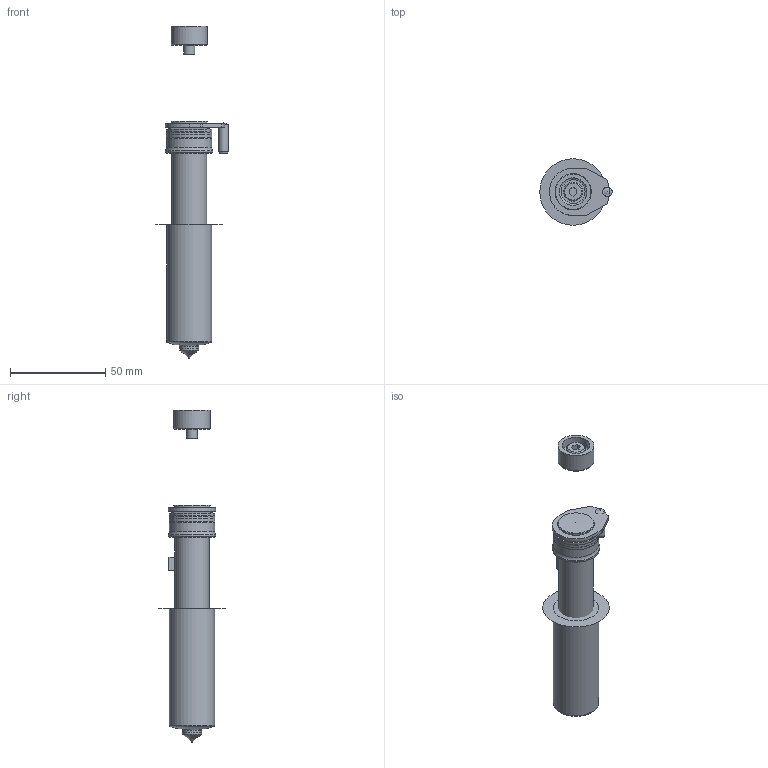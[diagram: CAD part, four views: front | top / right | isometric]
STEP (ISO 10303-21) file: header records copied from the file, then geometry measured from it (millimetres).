
FILE_DESCRIPTION(/* description */ (''),/* implementation_level */ '2;1');
FILE_NAME(/* name */ 'U500 HT-D.stp',/* time_stamp */ '2021-12-22T13:57:40+08:00',/* author */ (''),/* organization */ (''),/* preprocessor_version */ 'ST-DEVELOPER v16',/* originating_system */ 'SIEMENS PLM Software NX 11.0',/* authorisation */ '');
FILE_SCHEMA (('AUTOMOTIVE_DESIGN { 1 0 10303 214 3 1 1 1 }'));
Length unit declared in the file: millimetre
Products named in the file (19): 3D_EXPORT_3D_ASSY_11312273_0_id6_x_t; 3D_EXPORT_3D_ASSY_11312273_0_id11_x_t; 3D_EXPORT_3D_ASSY_11312273_0_id20_x_t; 3D_EXPORT_3D_ASSY_11312273_0_id25_x_t; 3D_EXPORT_3D_ASSY_11312273_0_id30_x_t; 3D_EXPORT_3D_ASSY_11312273_0_id35_x_t; 3D_EXPORT_3D_ASSY_11312273_0_id40_x_t; 3D_EXPORT_3D_ASSY_11312273_0_id45_x_t; 3D_EXPORT_3D_ASSY_11312273_0_id50_x_t; 3D_EXPORT_3D_ASSY_11312273_0_id55_x_t; 3D_EXPORT_3D_ASSY_11312273_0_id60_x_t; 3D_EXPORT_3D_ASSY_11312273_0_id65_x_t; 3D_EXPORT_3D_ASSY_11312273_0_id72_x_t; 3D_EXPORT_3D_ASSY_11312273_0_id77_x_t; 3D_EXPORT_3D_ASSY_11312273_0_id82_x_t; 3D_EXPORT_3D_ASSY_11312273_0_id87_x_t; 3D_EXPORT_3D_ASSY_11312273_0_id92_x_t; 3D_EXPORT_3D_ASSY_11312273_0_id97_x_t; 3D_EXPORT_3D_ASSY_11312273_0_x_t
Assembly tree (21 placements, depth 2):
  3D_EXPORT_3D_ASSY_11312273_0_x_t
    3D_EXPORT_3D_ASSY_11312273_0_id97_x_t
    3D_EXPORT_3D_ASSY_11312273_0_id92_x_t
    3D_EXPORT_3D_ASSY_11312273_0_id87_x_t
    3D_EXPORT_3D_ASSY_11312273_0_id82_x_t
    3D_EXPORT_3D_ASSY_11312273_0_id77_x_t
    3D_EXPORT_3D_ASSY_11312273_0_id72_x_t
    3D_EXPORT_3D_ASSY_11312273_0_id65_x_t  x2
    3D_EXPORT_3D_ASSY_11312273_0_id60_x_t
    3D_EXPORT_3D_ASSY_11312273_0_id55_x_t
    3D_EXPORT_3D_ASSY_11312273_0_id50_x_t
    3D_EXPORT_3D_ASSY_11312273_0_id45_x_t
    3D_EXPORT_3D_ASSY_11312273_0_id40_x_t
    3D_EXPORT_3D_ASSY_11312273_0_id35_x_t
    3D_EXPORT_3D_ASSY_11312273_0_id30_x_t
    3D_EXPORT_3D_ASSY_11312273_0_id25_x_t
    3D_EXPORT_3D_ASSY_11312273_0_id20_x_t
    3D_EXPORT_3D_ASSY_11312273_0_id11_x_t  x3
    3D_EXPORT_3D_ASSY_11312273_0_id6_x_t
Bounding box: 38 x 35 x 174.58 mm (x, y, z)
Volume: 69265.2 mm3; surface area: 32738.9 mm2
Topology: 21 solids, 21 shells, 221 faces, 440 edges, 277 vertices
Faces by surface type: plane 99, cylinder 62, cone 30, torus 28, sphere 2
Full cylindrical faces by diameter (mm): 0.8 x1, 1 x2, 5 x1, 5.5 x1, 5.795 x1, 6 x1, 7.4 x1, 7.48 x1, 7.5 x1, 8.944 x1, 9 x1, 9.8 x1, 10 x1, 10.007 x1, 10.012 x1, 11.86 x1, 12.5 x1, 12.568 x1, 12.66 x1, 12.715 x1, 12.735 x1, 12.76 x1, 13.005 x1, 13.23 x1, 13.725 x2, 14.5 x1, 16.307 x1, 17.125 x2, 17.62 x1, 18.4 x1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
Entity records: 6710 total; most frequent: DIRECTION 914, CARTESIAN_POINT 894, ORIENTED_EDGE 594, AXIS2_PLACEMENT_3D 405, EDGE_LOOP 320, EDGE_CURVE 297, VERTEX_POINT 238, FACE_BOUND 230
